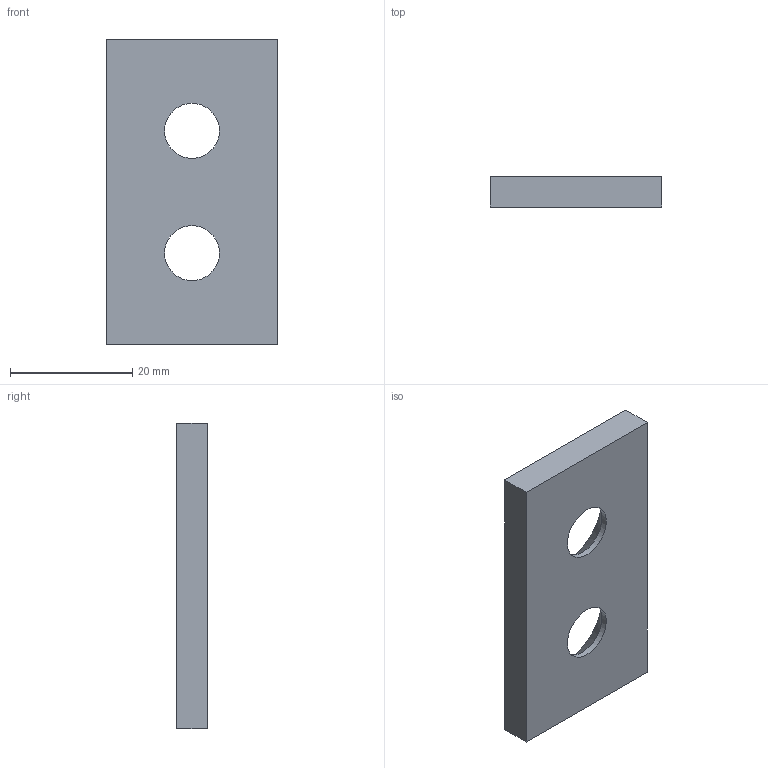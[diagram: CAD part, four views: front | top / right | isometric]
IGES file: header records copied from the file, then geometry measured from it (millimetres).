
Start section: Data from Parasolid IGES Translator 20.0.26, Copyright(c) 2006 Siemens P LM Software. All Rights Reserved.
Global section: file name: P605-01-028-050.igs; native system: By Siemens PLM Incorporated; preprocessor: XPlus GENERIC/IGES 20.0.26; author: Noname; organization: Noname; date: 20190705.145523; units: millimetre
Bounding box: 28 x 5 x 50 mm (x, y, z)
Surface area: 3517.4 mm2 (no closed solid volume)
Topology: 0 solids, 0 shells, 10 faces, 44 edges, 42 vertices
Faces by surface type: extrusion 6, revolution 4
